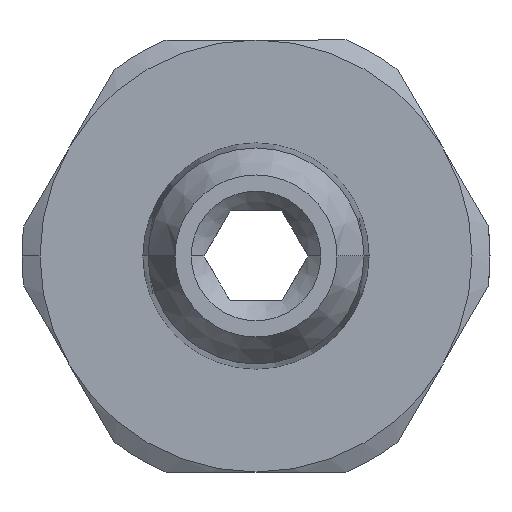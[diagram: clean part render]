
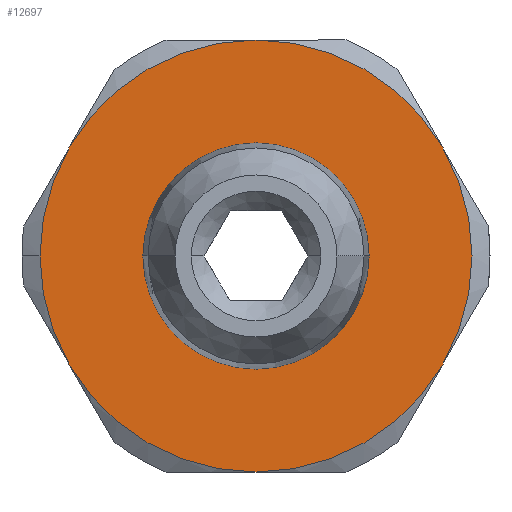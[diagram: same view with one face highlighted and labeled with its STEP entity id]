
A CAD part, front view. The second image highlights one B-rep face of the part: STEP entity #12697.
In plain terms, the highlighted planar face has unit normal (0, -1, 0).
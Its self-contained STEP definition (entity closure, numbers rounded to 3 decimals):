
#481 = EDGE_CURVE ( 'NONE', #4516, #3563, #3230, .T. ) ;
#706 = VERTEX_POINT ( 'NONE', #4450 ) ;
#758 = AXIS2_PLACEMENT_3D ( 'NONE', #7491, #19083, #9258 ) ;
#904 = CIRCLE ( 'NONE', #15722, 6. ) ;
#1390 = DIRECTION ( 'NONE',  ( 0., 1., 0. ) ) ;
#1429 = VERTEX_POINT ( 'NONE', #17225 ) ;
#1627 = EDGE_CURVE ( 'NONE', #19578, #6759, #21117, .T. ) ;
#2569 = ORIENTED_EDGE ( 'NONE', *, *, #16871, .T. ) ;
#2608 = CARTESIAN_POINT ( 'NONE',  ( 0., -5.5, 0. ) ) ;
#3230 = CIRCLE ( 'NONE', #20336, 6. ) ;
#3290 = CIRCLE ( 'NONE', #8796, 6. ) ;
#3311 = CIRCLE ( 'NONE', #15964, 3.142 ) ;
#3563 = VERTEX_POINT ( 'NONE', #17702 ) ;
#3610 = DIRECTION ( 'NONE',  ( -1., 0., 0. ) ) ;
#3654 = EDGE_CURVE ( 'NONE', #6759, #12732, #904, .T. ) ;
#3813 = DIRECTION ( 'NONE',  ( 0., 1., 0. ) ) ;
#4051 = ORIENTED_EDGE ( 'NONE', *, *, #6070, .F. ) ;
#4118 = ORIENTED_EDGE ( 'NONE', *, *, #481, .F. ) ;
#4450 = CARTESIAN_POINT ( 'NONE',  ( 5.196, -5.5, 3. ) ) ;
#4516 = VERTEX_POINT ( 'NONE', #18511 ) ;
#4601 = ORIENTED_EDGE ( 'NONE', *, *, #20729, .F. ) ;
#4724 = EDGE_LOOP ( 'NONE', ( #16076, #16116, #4051, #4118, #4601, #7478, #13248 ) ) ;
#6070 = EDGE_CURVE ( 'NONE', #3563, #19578, #19032, .T. ) ;
#6458 = CARTESIAN_POINT ( 'NONE',  ( 0., -5.5, 0. ) ) ;
#6759 = VERTEX_POINT ( 'NONE', #19079 ) ;
#7478 = ORIENTED_EDGE ( 'NONE', *, *, #18644, .F. ) ;
#7491 = CARTESIAN_POINT ( 'NONE',  ( 0., -5.5, 0. ) ) ;
#7706 = CARTESIAN_POINT ( 'NONE',  ( 0., -5.5, 0. ) ) ;
#8037 = DIRECTION ( 'NONE',  ( 0., -1., 0. ) ) ;
#8308 = DIRECTION ( 'NONE',  ( -1., 0., 0. ) ) ;
#8439 = DIRECTION ( 'NONE',  ( 0., 1., 0. ) ) ;
#8508 = CARTESIAN_POINT ( 'NONE',  ( -3.142, -5.5, 0. ) ) ;
#8796 = AXIS2_PLACEMENT_3D ( 'NONE', #7706, #19268, #9491 ) ;
#9258 = DIRECTION ( 'NONE',  ( -1., 0., 0. ) ) ;
#9491 = DIRECTION ( 'NONE',  ( -1., 0., 0. ) ) ;
#10119 = AXIS2_PLACEMENT_3D ( 'NONE', #14140, #3813, #15776 ) ;
#11651 = CARTESIAN_POINT ( 'NONE',  ( 0., -5.5, 6. ) ) ;
#12697 = ADVANCED_FACE ( 'NONE', ( #15513, #19684 ), #21061, .T. ) ;
#12732 = VERTEX_POINT ( 'NONE', #11651 ) ;
#12822 = AXIS2_PLACEMENT_3D ( 'NONE', #20046, #20169, #20247 ) ;
#12952 = DIRECTION ( 'NONE',  ( -1., 0., 0. ) ) ;
#13056 = DIRECTION ( 'NONE',  ( 0., 1., 0. ) ) ;
#13248 = ORIENTED_EDGE ( 'NONE', *, *, #20176, .F. ) ;
#14137 = VERTEX_POINT ( 'NONE', #19373 ) ;
#14140 = CARTESIAN_POINT ( 'NONE',  ( 0., -5.5, 0. ) ) ;
#14387 = ORIENTED_EDGE ( 'NONE', *, *, #19612, .T. ) ;
#14446 = AXIS2_PLACEMENT_3D ( 'NONE', #17979, #8037, #19533 ) ;
#14637 = VERTEX_POINT ( 'NONE', #8508 ) ;
#14844 = CARTESIAN_POINT ( 'NONE',  ( 0., -5.5, 0. ) ) ;
#15513 = FACE_BOUND ( 'NONE', #17008, .T. ) ;
#15722 = AXIS2_PLACEMENT_3D ( 'NONE', #2608, #1390, #3610 ) ;
#15776 = DIRECTION ( 'NONE',  ( -1., 0., 0. ) ) ;
#15964 = AXIS2_PLACEMENT_3D ( 'NONE', #18364, #8439, #19910 ) ;
#16076 = ORIENTED_EDGE ( 'NONE', *, *, #3654, .F. ) ;
#16116 = ORIENTED_EDGE ( 'NONE', *, *, #1627, .F. ) ;
#16623 = CIRCLE ( 'NONE', #10119, 3.142 ) ;
#16871 = EDGE_CURVE ( 'NONE', #14137, #14637, #16623, .T. ) ;
#17008 = EDGE_LOOP ( 'NONE', ( #14387, #2569 ) ) ;
#17225 = CARTESIAN_POINT ( 'NONE',  ( 5.196, -5.5, -3. ) ) ;
#17702 = CARTESIAN_POINT ( 'NONE',  ( -5.196, -5.5, -3. ) ) ;
#17979 = CARTESIAN_POINT ( 'NONE',  ( 3.142, -5.5, 0. ) ) ;
#18227 = DIRECTION ( 'NONE',  ( -1., 0., 0. ) ) ;
#18233 = DIRECTION ( 'NONE',  ( 0., 1., 0. ) ) ;
#18279 = DIRECTION ( 'NONE',  ( 0., 1., 0. ) ) ;
#18346 = CARTESIAN_POINT ( 'NONE',  ( 0., -5.5, 0. ) ) ;
#18364 = CARTESIAN_POINT ( 'NONE',  ( 0., -5.5, 0. ) ) ;
#18511 = CARTESIAN_POINT ( 'NONE',  ( 0., -5.5, -6. ) ) ;
#18644 = EDGE_CURVE ( 'NONE', #706, #1429, #20528, .T. ) ;
#18761 = AXIS2_PLACEMENT_3D ( 'NONE', #14844, #13056, #12952 ) ;
#19032 = CIRCLE ( 'NONE', #12822, 6. ) ;
#19079 = CARTESIAN_POINT ( 'NONE',  ( -5.196, -5.5, 3. ) ) ;
#19083 = DIRECTION ( 'NONE',  ( 0., 1., 0. ) ) ;
#19268 = DIRECTION ( 'NONE',  ( 0., 1., 0. ) ) ;
#19373 = CARTESIAN_POINT ( 'NONE',  ( 3.142, -5.5, 0. ) ) ;
#19506 = AXIS2_PLACEMENT_3D ( 'NONE', #6458, #18233, #8308 ) ;
#19533 = DIRECTION ( 'NONE',  ( 1., 0., 0. ) ) ;
#19578 = VERTEX_POINT ( 'NONE', #21418 ) ;
#19612 = EDGE_CURVE ( 'NONE', #14637, #14137, #3311, .T. ) ;
#19684 = FACE_OUTER_BOUND ( 'NONE', #4724, .T. ) ;
#19910 = DIRECTION ( 'NONE',  ( -1., 0., 0. ) ) ;
#20046 = CARTESIAN_POINT ( 'NONE',  ( 0., -5.5, 0. ) ) ;
#20169 = DIRECTION ( 'NONE',  ( 0., 1., 0. ) ) ;
#20176 = EDGE_CURVE ( 'NONE', #12732, #706, #21257, .T. ) ;
#20247 = DIRECTION ( 'NONE',  ( -1., 0., 0. ) ) ;
#20336 = AXIS2_PLACEMENT_3D ( 'NONE', #18346, #18279, #18227 ) ;
#20528 = CIRCLE ( 'NONE', #19506, 6. ) ;
#20729 = EDGE_CURVE ( 'NONE', #1429, #4516, #3290, .T. ) ;
#21061 = PLANE ( 'NONE',  #14446 ) ;
#21117 = CIRCLE ( 'NONE', #18761, 6. ) ;
#21257 = CIRCLE ( 'NONE', #758, 6. ) ;
#21418 = CARTESIAN_POINT ( 'NONE',  ( -6., -5.5, 0. ) ) ;
